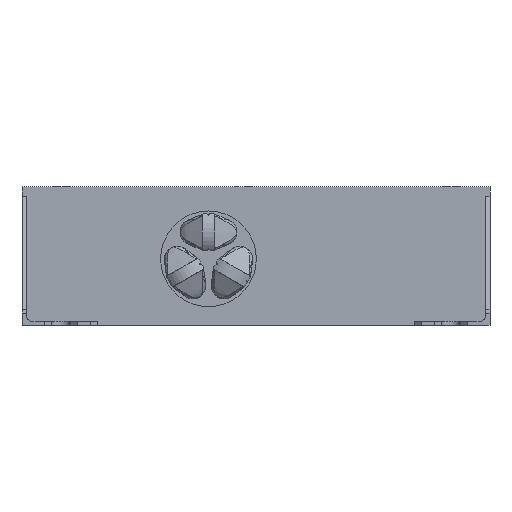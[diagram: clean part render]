
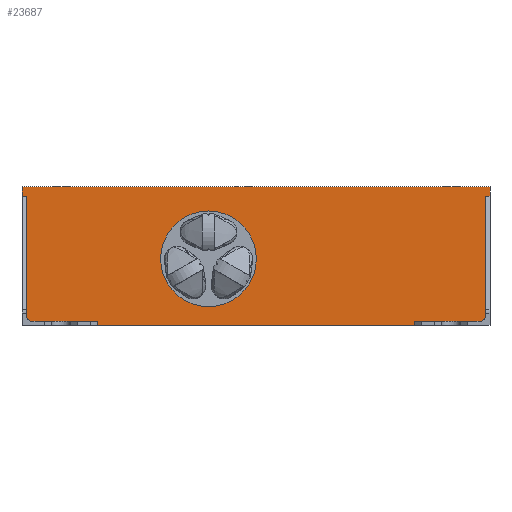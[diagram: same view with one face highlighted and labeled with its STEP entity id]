
A CAD part, front view. The second image highlights one B-rep face of the part: STEP entity #23687.
In plain terms, the highlighted planar face has unit normal (0, -1, 0).
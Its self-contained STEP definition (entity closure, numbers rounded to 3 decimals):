
#344 = EDGE_LOOP ( 'NONE', ( #8245, #4796 ) ) ;
#394 = DIRECTION ( 'NONE',  ( 0., 1., 0. ) ) ;
#702 = DIRECTION ( 'NONE',  ( 1., 0., 0. ) ) ;
#1425 = ORIENTED_EDGE ( 'NONE', *, *, #13761, .F. ) ;
#2095 = EDGE_CURVE ( 'NONE', #10799, #16685, #13627, .T. ) ;
#2136 = VECTOR ( 'NONE', #17554, 1000. ) ;
#2469 = CARTESIAN_POINT ( 'NONE',  ( -162., -292.5, 82.5 ) ) ;
#2593 = ORIENTED_EDGE ( 'NONE', *, *, #8393, .F. ) ;
#2608 = LINE ( 'NONE', #8455, #11467 ) ;
#2821 = ORIENTED_EDGE ( 'NONE', *, *, #3894, .F. ) ;
#2844 = CARTESIAN_POINT ( 'NONE',  ( -165., -292.5, 89.5 ) ) ;
#3195 = ORIENTED_EDGE ( 'NONE', *, *, #22889, .F. ) ;
#3300 = DIRECTION ( 'NONE',  ( 0., 0., 1. ) ) ;
#3532 = CARTESIAN_POINT ( 'NONE',  ( 112., -292.5, -8.5 ) ) ;
#3743 = CIRCLE ( 'NONE', #24279, 33.75 ) ;
#3894 = EDGE_CURVE ( 'NONE', #20625, #18619, #2608, .T. ) ;
#4154 = CARTESIAN_POINT ( 'NONE',  ( -162., -292.5, -1.5 ) ) ;
#4165 = EDGE_CURVE ( 'NONE', #15314, #9247, #20511, .T. ) ;
#4204 = VERTEX_POINT ( 'NONE', #24097 ) ;
#4214 = DIRECTION ( 'NONE',  ( 0., 0., -1. ) ) ;
#4256 = DIRECTION ( 'NONE',  ( 0., 0., -1. ) ) ;
#4326 = CARTESIAN_POINT ( 'NONE',  ( 0., -292.5, -5.5 ) ) ;
#4535 = EDGE_CURVE ( 'NONE', #8619, #23965, #18992, .T. ) ;
#4602 = VECTOR ( 'NONE', #19426, 1000. ) ;
#4683 = LINE ( 'NONE', #19653, #2136 ) ;
#4689 = CARTESIAN_POINT ( 'NONE',  ( 162., -292.5, -1.5 ) ) ;
#4796 = ORIENTED_EDGE ( 'NONE', *, *, #4535, .T. ) ;
#4949 = CARTESIAN_POINT ( 'NONE',  ( 162., -292.5, 82.5 ) ) ;
#5068 = ORIENTED_EDGE ( 'NONE', *, *, #7808, .F. ) ;
#5509 = VECTOR ( 'NONE', #4214, 1000. ) ;
#5626 = CARTESIAN_POINT ( 'NONE',  ( 165., -292.5, 82.5 ) ) ;
#5752 = ORIENTED_EDGE ( 'NONE', *, *, #14097, .F. ) ;
#5955 = VECTOR ( 'NONE', #16568, 1000. ) ;
#6052 = CARTESIAN_POINT ( 'NONE',  ( 165., -292.5, -948.34 ) ) ;
#6081 = CARTESIAN_POINT ( 'NONE',  ( -158., -292.5, -1.5 ) ) ;
#6138 = ORIENTED_EDGE ( 'NONE', *, *, #13585, .T. ) ;
#6351 = AXIS2_PLACEMENT_3D ( 'NONE', #12708, #20246, #3300 ) ;
#6636 = EDGE_CURVE ( 'NONE', #22457, #18678, #15149, .T. ) ;
#6671 = CARTESIAN_POINT ( 'NONE',  ( -33.5, -292.5, 4.75 ) ) ;
#6746 = DIRECTION ( 'NONE',  ( 0., 1., 0. ) ) ;
#7011 = VERTEX_POINT ( 'NONE', #4689 ) ;
#7186 = ORIENTED_EDGE ( 'NONE', *, *, #4165, .F. ) ;
#7470 = VERTEX_POINT ( 'NONE', #14793 ) ;
#7808 = EDGE_CURVE ( 'NONE', #7011, #23501, #11158, .T. ) ;
#7827 = DIRECTION ( 'NONE',  ( 0., 0., 1. ) ) ;
#8245 = ORIENTED_EDGE ( 'NONE', *, *, #19805, .T. ) ;
#8393 = EDGE_CURVE ( 'NONE', #4204, #7470, #24013, .T. ) ;
#8455 = CARTESIAN_POINT ( 'NONE',  ( -162., -292.5, 89.5 ) ) ;
#8619 = VERTEX_POINT ( 'NONE', #15708 ) ;
#8786 = CARTESIAN_POINT ( 'NONE',  ( 112., -292.5, -5.5 ) ) ;
#8938 = CARTESIAN_POINT ( 'NONE',  ( -112., -292.5, -8.5 ) ) ;
#9052 = EDGE_LOOP ( 'NONE', ( #6138, #2821, #1425, #15996, #2593, #17358, #11817, #14258, #5068, #5752, #11368, #9698, #7186, #3195 ) ) ;
#9092 = CARTESIAN_POINT ( 'NONE',  ( 165., -292.5, 89.5 ) ) ;
#9200 = VERTEX_POINT ( 'NONE', #14156 ) ;
#9247 = VERTEX_POINT ( 'NONE', #9092 ) ;
#9349 = DIRECTION ( 'NONE',  ( -1., 0., 0. ) ) ;
#9670 = CARTESIAN_POINT ( 'NONE',  ( 0., -292.5, 89.5 ) ) ;
#9698 = ORIENTED_EDGE ( 'NONE', *, *, #13845, .T. ) ;
#9770 = LINE ( 'NONE', #6052, #21501 ) ;
#9908 = PLANE ( 'NONE',  #12099 ) ;
#10357 = LINE ( 'NONE', #23814, #14071 ) ;
#10595 = DIRECTION ( 'NONE',  ( 1., 0., 0. ) ) ;
#10799 = VERTEX_POINT ( 'NONE', #8786 ) ;
#11158 = CIRCLE ( 'NONE', #15890, 4. ) ;
#11282 = LINE ( 'NONE', #21026, #20701 ) ;
#11368 = ORIENTED_EDGE ( 'NONE', *, *, #6636, .F. ) ;
#11467 = VECTOR ( 'NONE', #19564, 1000. ) ;
#11539 = VECTOR ( 'NONE', #22268, 1000. ) ;
#11817 = ORIENTED_EDGE ( 'NONE', *, *, #2095, .F. ) ;
#12099 = AXIS2_PLACEMENT_3D ( 'NONE', #9670, #394, #7827 ) ;
#12708 = CARTESIAN_POINT ( 'NONE',  ( -33.5, -292.5, 38.5 ) ) ;
#12859 = EDGE_CURVE ( 'NONE', #16685, #4204, #11282, .T. ) ;
#12879 = DIRECTION ( 'NONE',  ( 0., 1., 0. ) ) ;
#13153 = DIRECTION ( 'NONE',  ( 0., 1., 0. ) ) ;
#13444 = CARTESIAN_POINT ( 'NONE',  ( -162., -292.5, 82.5 ) ) ;
#13585 = EDGE_CURVE ( 'NONE', #24435, #18619, #19961, .T. ) ;
#13599 = DIRECTION ( 'NONE',  ( 0., 0., 1. ) ) ;
#13610 = AXIS2_PLACEMENT_3D ( 'NONE', #6081, #13153, #14230 ) ;
#13627 = LINE ( 'NONE', #17340, #5509 ) ;
#13761 = EDGE_CURVE ( 'NONE', #9200, #20625, #17160, .T. ) ;
#13845 = EDGE_CURVE ( 'NONE', #22457, #9247, #9770, .T. ) ;
#14071 = VECTOR ( 'NONE', #10595, 1000. ) ;
#14097 = EDGE_CURVE ( 'NONE', #18678, #7011, #4683, .T. ) ;
#14156 = CARTESIAN_POINT ( 'NONE',  ( -158., -292.5, -5.5 ) ) ;
#14230 = DIRECTION ( 'NONE',  ( 0., 0., -1. ) ) ;
#14258 = ORIENTED_EDGE ( 'NONE', *, *, #16674, .T. ) ;
#14289 = VECTOR ( 'NONE', #9349, 1000. ) ;
#14793 = CARTESIAN_POINT ( 'NONE',  ( -112., -292.5, -5.5 ) ) ;
#15149 = LINE ( 'NONE', #5626, #14289 ) ;
#15314 = VERTEX_POINT ( 'NONE', #2844 ) ;
#15708 = CARTESIAN_POINT ( 'NONE',  ( -33.5, -292.5, 72.25 ) ) ;
#15890 = AXIS2_PLACEMENT_3D ( 'NONE', #23669, #6746, #4256 ) ;
#15996 = ORIENTED_EDGE ( 'NONE', *, *, #18608, .T. ) ;
#16568 = DIRECTION ( 'NONE',  ( 1., 0., 0. ) ) ;
#16574 = LINE ( 'NONE', #23991, #22331 ) ;
#16674 = EDGE_CURVE ( 'NONE', #10799, #23501, #10357, .T. ) ;
#16685 = VERTEX_POINT ( 'NONE', #3532 ) ;
#16853 = DIRECTION ( 'NONE',  ( -1., 0., 0. ) ) ;
#17160 = CIRCLE ( 'NONE', #13610, 4. ) ;
#17340 = CARTESIAN_POINT ( 'NONE',  ( 112., -292.5, -8.5 ) ) ;
#17358 = ORIENTED_EDGE ( 'NONE', *, *, #12859, .F. ) ;
#17554 = DIRECTION ( 'NONE',  ( 0., 0., -1. ) ) ;
#17660 = CARTESIAN_POINT ( 'NONE',  ( -165., -292.5, 82.5 ) ) ;
#17964 = VECTOR ( 'NONE', #702, 1000. ) ;
#18353 = CARTESIAN_POINT ( 'NONE',  ( 165., -292.5, 82.5 ) ) ;
#18608 = EDGE_CURVE ( 'NONE', #9200, #7470, #21262, .T. ) ;
#18619 = VERTEX_POINT ( 'NONE', #2469 ) ;
#18678 = VERTEX_POINT ( 'NONE', #4949 ) ;
#18992 = CIRCLE ( 'NONE', #6351, 33.75 ) ;
#19072 = FACE_OUTER_BOUND ( 'NONE', #9052, .T. ) ;
#19306 = FACE_BOUND ( 'NONE', #344, .T. ) ;
#19426 = DIRECTION ( 'NONE',  ( 1., 0., 0. ) ) ;
#19564 = DIRECTION ( 'NONE',  ( 0., 0., 1. ) ) ;
#19653 = CARTESIAN_POINT ( 'NONE',  ( 162., -292.5, 89.5 ) ) ;
#19805 = EDGE_CURVE ( 'NONE', #23965, #8619, #3743, .T. ) ;
#19961 = LINE ( 'NONE', #13444, #17964 ) ;
#20246 = DIRECTION ( 'NONE',  ( 0., 1., 0. ) ) ;
#20511 = LINE ( 'NONE', #22472, #5955 ) ;
#20625 = VERTEX_POINT ( 'NONE', #4154 ) ;
#20701 = VECTOR ( 'NONE', #16853, 1000. ) ;
#20766 = DIRECTION ( 'NONE',  ( 0., 0., 1. ) ) ;
#21026 = CARTESIAN_POINT ( 'NONE',  ( -165., -292.5, -8.5 ) ) ;
#21262 = LINE ( 'NONE', #4326, #4602 ) ;
#21501 = VECTOR ( 'NONE', #13599, 1000. ) ;
#22245 = DIRECTION ( 'NONE',  ( 0., 0., 1. ) ) ;
#22268 = DIRECTION ( 'NONE',  ( 0., 0., 1. ) ) ;
#22331 = VECTOR ( 'NONE', #22245, 1000. ) ;
#22457 = VERTEX_POINT ( 'NONE', #18353 ) ;
#22472 = CARTESIAN_POINT ( 'NONE',  ( -165., -292.5, 89.5 ) ) ;
#22612 = CARTESIAN_POINT ( 'NONE',  ( -33.5, -292.5, 38.5 ) ) ;
#22889 = EDGE_CURVE ( 'NONE', #24435, #15314, #16574, .T. ) ;
#23501 = VERTEX_POINT ( 'NONE', #23898 ) ;
#23669 = CARTESIAN_POINT ( 'NONE',  ( 158., -292.5, -1.5 ) ) ;
#23687 = ADVANCED_FACE ( 'NONE', ( #19072, #19306 ), #9908, .F. ) ;
#23814 = CARTESIAN_POINT ( 'NONE',  ( 0., -292.5, -5.5 ) ) ;
#23898 = CARTESIAN_POINT ( 'NONE',  ( 158., -292.5, -5.5 ) ) ;
#23965 = VERTEX_POINT ( 'NONE', #6671 ) ;
#23991 = CARTESIAN_POINT ( 'NONE',  ( -165., -292.5, -948.34 ) ) ;
#24013 = LINE ( 'NONE', #8938, #11539 ) ;
#24097 = CARTESIAN_POINT ( 'NONE',  ( -112., -292.5, -8.5 ) ) ;
#24279 = AXIS2_PLACEMENT_3D ( 'NONE', #22612, #12879, #20766 ) ;
#24435 = VERTEX_POINT ( 'NONE', #17660 ) ;
